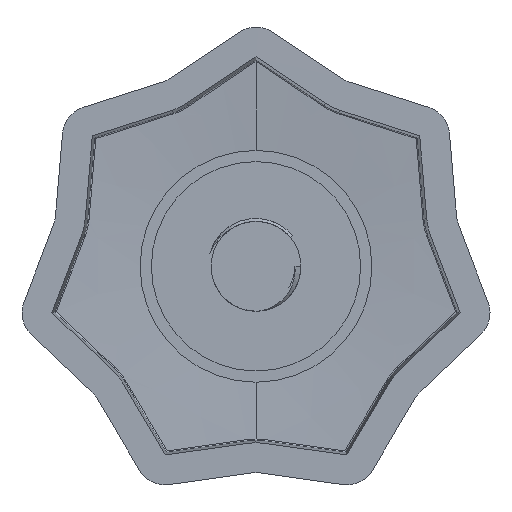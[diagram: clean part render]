
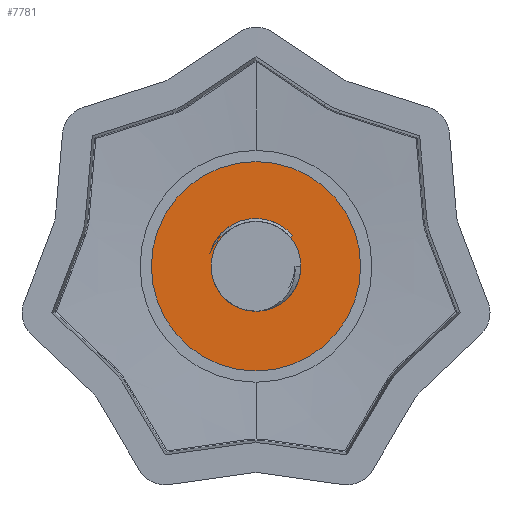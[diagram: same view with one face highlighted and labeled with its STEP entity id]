
A CAD part, front view. The second image highlights one B-rep face of the part: STEP entity #7781.
In plain terms, the highlighted planar face has unit normal (0, -1, 0).
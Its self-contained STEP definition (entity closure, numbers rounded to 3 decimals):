
#158 = DIRECTION ( 'NONE',  ( 0., 0., -1. ) ) ;
#242 = CARTESIAN_POINT ( 'NONE',  ( 0., -8., 7. ) ) ;
#341 = CIRCLE ( 'NONE', #6183, 3. ) ;
#567 = FACE_OUTER_BOUND ( 'NONE', #5661, .T. ) ;
#741 = CARTESIAN_POINT ( 'NONE',  ( 0., -8., -3. ) ) ;
#863 = EDGE_LOOP ( 'NONE', ( #5538, #7960, #1646, #3117, #1349 ) ) ;
#1014 = AXIS2_PLACEMENT_3D ( 'NONE', #5631, #1904, #6263 ) ;
#1140 = VERTEX_POINT ( 'NONE', #5100 ) ;
#1206 = DIRECTION ( 'NONE',  ( 0., -1., 0. ) ) ;
#1254 = DIRECTION ( 'NONE',  ( 0., -1., 0. ) ) ;
#1349 = ORIENTED_EDGE ( 'NONE', *, *, #5420, .T. ) ;
#1471 = B_SPLINE_CURVE_WITH_KNOTS ( 'NONE', 3,
 ( #7869, #5380, #6013, #2290, #6653, #2900, #7279, #3528, #7903, #4140 ),
 .UNSPECIFIED., .F., .F.,
 ( 4, 2, 2, 2, 4 ),
 ( 0.004, 0.005, 0.005, 0.006, 0.006 ),
 .UNSPECIFIED. ) ;
#1646 = ORIENTED_EDGE ( 'NONE', *, *, #5600, .F. ) ;
#1647 = VERTEX_POINT ( 'NONE', #6880 ) ;
#1682 = DIRECTION ( 'NONE',  ( 0., -1., 0. ) ) ;
#1723 = DIRECTION ( 'NONE',  ( 0., -1., 0. ) ) ;
#1904 = DIRECTION ( 'NONE',  ( 0., 1., 0. ) ) ;
#2290 = CARTESIAN_POINT ( 'NONE',  ( -2.266, -8., 2.074 ) ) ;
#2356 = EDGE_CURVE ( 'NONE', #2806, #6356, #5991, .T. ) ;
#2624 = AXIS2_PLACEMENT_3D ( 'NONE', #3256, #3231, #158 ) ;
#2645 = PLANE ( 'NONE',  #2624 ) ;
#2806 = VERTEX_POINT ( 'NONE', #7768 ) ;
#2888 = VERTEX_POINT ( 'NONE', #5296 ) ;
#2900 = CARTESIAN_POINT ( 'NONE',  ( -2.639, -8., 1.668 ) ) ;
#3117 = ORIENTED_EDGE ( 'NONE', *, *, #4323, .F. ) ;
#3231 = DIRECTION ( 'NONE',  ( 0., -1., 0. ) ) ;
#3256 = CARTESIAN_POINT ( 'NONE',  ( 0., -8., 0. ) ) ;
#3368 = CARTESIAN_POINT ( 'NONE',  ( 2.451, -8., 2.057 ) ) ;
#3528 = CARTESIAN_POINT ( 'NONE',  ( -2.938, -8., 1.198 ) ) ;
#3560 = ORIENTED_EDGE ( 'NONE', *, *, #2356, .T. ) ;
#3639 = CARTESIAN_POINT ( 'NONE',  ( 0., -8., 0. ) ) ;
#3659 = EDGE_CURVE ( 'NONE', #4855, #1647, #4517, .T. ) ;
#3684 = FACE_BOUND ( 'NONE', #863, .T. ) ;
#3844 = AXIS2_PLACEMENT_3D ( 'NONE', #4916, #1206, #5565 ) ;
#3982 = ORIENTED_EDGE ( 'NONE', *, *, #5872, .T. ) ;
#3987 = CIRCLE ( 'NONE', #1014, 3.2 ) ;
#4140 = CARTESIAN_POINT ( 'NONE',  ( -3.083, -8., 0.856 ) ) ;
#4323 = EDGE_CURVE ( 'NONE', #2888, #6211, #341, .T. ) ;
#4517 = LINE ( 'NONE', #3639, #7264 ) ;
#4855 = VERTEX_POINT ( 'NONE', #3368 ) ;
#4916 = CARTESIAN_POINT ( 'NONE',  ( 0., -8., 0. ) ) ;
#4974 = CARTESIAN_POINT ( 'NONE',  ( 0., -8., 0. ) ) ;
#5100 = CARTESIAN_POINT ( 'NONE',  ( -3.083, -8., 0.856 ) ) ;
#5199 = CIRCLE ( 'NONE', #7192, 7. ) ;
#5296 = CARTESIAN_POINT ( 'NONE',  ( -1.661, -8., 2.498 ) ) ;
#5380 = CARTESIAN_POINT ( 'NONE',  ( -1.822, -8., 2.41 ) ) ;
#5407 = CARTESIAN_POINT ( 'NONE',  ( 0., -8., 0. ) ) ;
#5420 = EDGE_CURVE ( 'NONE', #2888, #1140, #1471, .T. ) ;
#5450 = CARTESIAN_POINT ( 'NONE',  ( 0., -8., 0. ) ) ;
#5538 = ORIENTED_EDGE ( 'NONE', *, *, #6115, .T. ) ;
#5565 = DIRECTION ( 'NONE',  ( 0., 0., -1. ) ) ;
#5600 = EDGE_CURVE ( 'NONE', #6211, #1647, #6187, .T. ) ;
#5613 = DIRECTION ( 'NONE',  ( 0., 0., -1. ) ) ;
#5631 = CARTESIAN_POINT ( 'NONE',  ( 0., -8., 0. ) ) ;
#5649 = AXIS2_PLACEMENT_3D ( 'NONE', #5407, #1682, #6042 ) ;
#5661 = EDGE_LOOP ( 'NONE', ( #3982, #3560 ) ) ;
#5872 = EDGE_CURVE ( 'NONE', #6356, #2806, #5199, .T. ) ;
#5991 = CIRCLE ( 'NONE', #5649, 7. ) ;
#6013 = CARTESIAN_POINT ( 'NONE',  ( -1.977, -8., 2.307 ) ) ;
#6042 = DIRECTION ( 'NONE',  ( 0., 0., -1. ) ) ;
#6075 = DIRECTION ( 'NONE',  ( 0., 0., -1. ) ) ;
#6115 = EDGE_CURVE ( 'NONE', #1140, #4855, #3987, .T. ) ;
#6183 = AXIS2_PLACEMENT_3D ( 'NONE', #4974, #1254, #5613 ) ;
#6187 = CIRCLE ( 'NONE', #3844, 3. ) ;
#6211 = VERTEX_POINT ( 'NONE', #741 ) ;
#6263 = DIRECTION ( 'NONE',  ( 0., 0., -1. ) ) ;
#6356 = VERTEX_POINT ( 'NONE', #242 ) ;
#6653 = CARTESIAN_POINT ( 'NONE',  ( -2.398, -8., 1.946 ) ) ;
#6791 = DIRECTION ( 'NONE',  ( -0.766, 0., -0.643 ) ) ;
#6880 = CARTESIAN_POINT ( 'NONE',  ( 2.298, -8., 1.928 ) ) ;
#7192 = AXIS2_PLACEMENT_3D ( 'NONE', #5450, #1723, #6075 ) ;
#7264 = VECTOR ( 'NONE', #6791, 1000. ) ;
#7279 = CARTESIAN_POINT ( 'NONE',  ( -2.749, -8., 1.516 ) ) ;
#7768 = CARTESIAN_POINT ( 'NONE',  ( 0., -8., -7. ) ) ;
#7781 = ADVANCED_FACE ( 'NONE', ( #567, #3684 ), #2645, .T. ) ;
#7869 = CARTESIAN_POINT ( 'NONE',  ( -1.661, -8., 2.498 ) ) ;
#7903 = CARTESIAN_POINT ( 'NONE',  ( -3.018, -8., 1.031 ) ) ;
#7960 = ORIENTED_EDGE ( 'NONE', *, *, #3659, .T. ) ;
